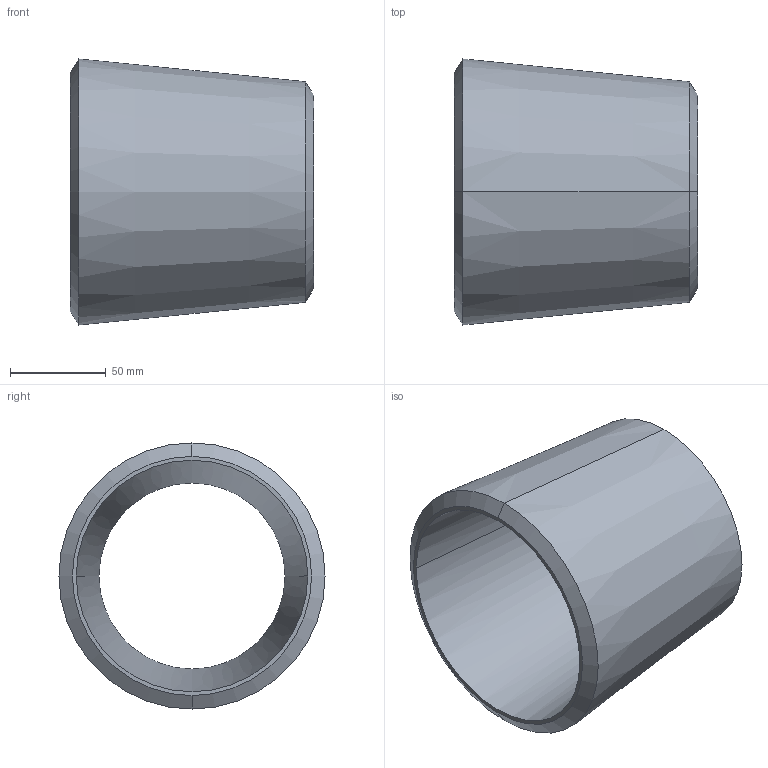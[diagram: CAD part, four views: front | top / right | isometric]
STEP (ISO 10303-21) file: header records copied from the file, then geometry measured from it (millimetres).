
FILE_DESCRIPTION (( 'STEP AP214' ), '1' );
FILE_NAME ('Concentric-reducer(2)_Sch80-125Ax100A.STEP', '2022-06-21T06:38:08', ( 'ASIS User' ), ( 'ASIS User' ), 'SwSTEP 2.0', 'SolidWorks 2022', '' );
FILE_SCHEMA (( 'AUTOMOTIVE_DESIGN' ));
Length unit declared in the file: millimetre
Products named in the file (1): Concentric-reducer(2)_Sch80-125Ax100A
Bounding box: 127 x 138.9 x 138.9 mm (x, y, z)
Volume: 414867.7 mm3; surface area: 98697.7 mm2
Topology: 1 solids, 1 shells, 10 faces, 20 edges, 12 vertices
Faces by surface type: cone 6, bspline 2, plane 2
Entity records: 832 total; most frequent: CARTESIAN_POINT 583, DIRECTION 48, ORIENTED_EDGE 40, AXIS2_PLACEMENT_3D 21, EDGE_CURVE 20, VERTEX_POINT 12, EDGE_LOOP 12, CIRCLE 12
